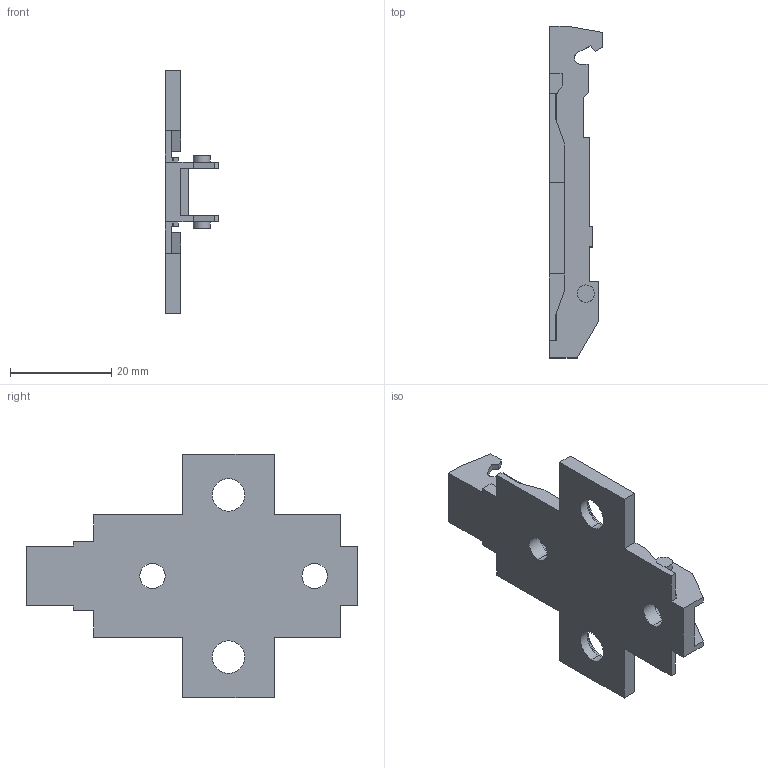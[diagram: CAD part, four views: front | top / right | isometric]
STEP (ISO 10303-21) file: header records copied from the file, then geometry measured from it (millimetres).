
FILE_DESCRIPTION (( 'STEP AP214' ), '1' );
FILE_NAME ('1D_Kreuzmontageplatte 37_32_Euro_0.step', '2018-10-02T12:38:22', ( '' ), ( '' ), 'SwSTEP 2.0', 'SolidWorks 2017', '' );
FILE_SCHEMA (( 'AUTOMOTIVE_DESIGN' ));
Length unit declared in the file: millimetre
Products named in the file (1): 1D_Kreuzmontageplatte 37_32_Euro_0
Bounding box: 10.5 x 65.5 x 48 mm (x, y, z)
Volume: 5556.3 mm3; surface area: 5859.2 mm2
Topology: 1 solids, 1 shells, 110 faces, 310 edges, 204 vertices
Faces by surface type: plane 84, cylinder 22, cone 4
Entity records: 3564 total; most frequent: CARTESIAN_POINT 625, ORIENTED_EDGE 620, DIRECTION 576, EDGE_CURVE 310, LINE 266, VECTOR 266, VERTEX_POINT 204, AXIS2_PLACEMENT_3D 155
